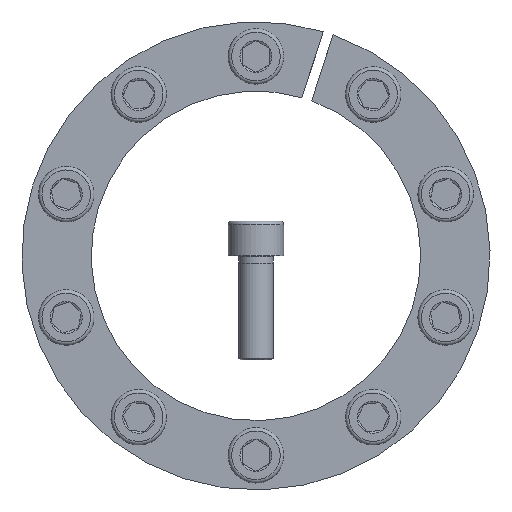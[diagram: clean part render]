
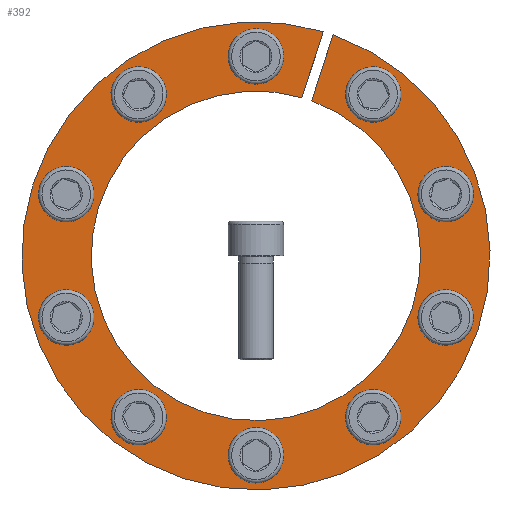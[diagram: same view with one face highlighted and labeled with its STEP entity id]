
A CAD part, front view. The second image highlights one B-rep face of the part: STEP entity #392.
In plain terms, the highlighted planar face has unit normal (0, -1, 0).
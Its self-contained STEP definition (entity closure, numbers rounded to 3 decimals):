
#392 = ADVANCED_FACE( '', ( #599, #600, #601, #602, #603, #604, #605, #606, #607, #608, #609 ), #610, .F. );
#599 = FACE_BOUND( '', #783, .T. );
#600 = FACE_BOUND( '', #784, .T. );
#601 = FACE_BOUND( '', #785, .T. );
#602 = FACE_BOUND( '', #786, .T. );
#603 = FACE_BOUND( '', #787, .T. );
#604 = FACE_OUTER_BOUND( '', #788, .T. );
#605 = FACE_BOUND( '', #789, .T. );
#606 = FACE_BOUND( '', #790, .T. );
#607 = FACE_BOUND( '', #791, .T. );
#608 = FACE_BOUND( '', #792, .T. );
#609 = FACE_BOUND( '', #793, .T. );
#610 = PLANE( '', #794 );
#783 = EDGE_LOOP( '', ( #1016 ) );
#784 = EDGE_LOOP( '', ( #1017 ) );
#785 = EDGE_LOOP( '', ( #1018 ) );
#786 = EDGE_LOOP( '', ( #1019 ) );
#787 = EDGE_LOOP( '', ( #1020 ) );
#788 = EDGE_LOOP( '', ( #1021, #1022, #1023, #1024 ) );
#789 = EDGE_LOOP( '', ( #1025 ) );
#790 = EDGE_LOOP( '', ( #1026 ) );
#791 = EDGE_LOOP( '', ( #1027 ) );
#792 = EDGE_LOOP( '', ( #1028 ) );
#793 = EDGE_LOOP( '', ( #1029 ) );
#794 = AXIS2_PLACEMENT_3D( '', #1030, #1031, #1032 );
#1016 = ORIENTED_EDGE( '', *, *, #1378, .T. );
#1017 = ORIENTED_EDGE( '', *, *, #1379, .T. );
#1018 = ORIENTED_EDGE( '', *, *, #1380, .T. );
#1019 = ORIENTED_EDGE( '', *, *, #1381, .T. );
#1020 = ORIENTED_EDGE( '', *, *, #1382, .T. );
#1021 = ORIENTED_EDGE( '', *, *, #1376, .F. );
#1022 = ORIENTED_EDGE( '', *, *, #1372, .F. );
#1023 = ORIENTED_EDGE( '', *, *, #1383, .T. );
#1024 = ORIENTED_EDGE( '', *, *, #1384, .F. );
#1025 = ORIENTED_EDGE( '', *, *, #1385, .T. );
#1026 = ORIENTED_EDGE( '', *, *, #1386, .T. );
#1027 = ORIENTED_EDGE( '', *, *, #1387, .T. );
#1028 = ORIENTED_EDGE( '', *, *, #1388, .T. );
#1029 = ORIENTED_EDGE( '', *, *, #1389, .T. );
#1030 = CARTESIAN_POINT( '', ( 0., 0., 67.5 ) );
#1031 = DIRECTION( '', ( 0., 1., 0. ) );
#1032 = DIRECTION( '', ( 0., 0., 1. ) );
#1372 = EDGE_CURVE( '', #1515, #1517, #1518, .T. );
#1376 = EDGE_CURVE( '', #1517, #1524, #1525, .T. );
#1378 = EDGE_CURVE( '', #1527, #1527, #1528, .T. );
#1379 = EDGE_CURVE( '', #1529, #1529, #1530, .T. );
#1380 = EDGE_CURVE( '', #1531, #1531, #1532, .T. );
#1381 = EDGE_CURVE( '', #1533, #1533, #1534, .T. );
#1382 = EDGE_CURVE( '', #1535, #1535, #1536, .T. );
#1383 = EDGE_CURVE( '', #1515, #1537, #1538, .T. );
#1384 = EDGE_CURVE( '', #1524, #1537, #1539, .T. );
#1385 = EDGE_CURVE( '', #1540, #1540, #1541, .T. );
#1386 = EDGE_CURVE( '', #1542, #1542, #1543, .T. );
#1387 = EDGE_CURVE( '', #1544, #1544, #1545, .T. );
#1388 = EDGE_CURVE( '', #1546, #1546, #1547, .T. );
#1389 = EDGE_CURVE( '', #1548, #1548, #1549, .T. );
#1515 = VERTEX_POINT( '', #1659 );
#1517 = VERTEX_POINT( '', #1662 );
#1518 = LINE( '', #1663, #1664 );
#1524 = VERTEX_POINT( '', #1672 );
#1525 = CIRCLE( '', #1673, 47.5 );
#1527 = VERTEX_POINT( '', #1676 );
#1528 = CIRCLE( '', #1677, 5. );
#1529 = VERTEX_POINT( '', #1678 );
#1530 = CIRCLE( '', #1679, 5. );
#1531 = VERTEX_POINT( '', #1680 );
#1532 = CIRCLE( '', #1681, 5. );
#1533 = VERTEX_POINT( '', #1682 );
#1534 = CIRCLE( '', #1683, 5. );
#1535 = VERTEX_POINT( '', #1684 );
#1536 = CIRCLE( '', #1685, 5. );
#1537 = VERTEX_POINT( '', #1686 );
#1538 = CIRCLE( '', #1687, 67.5 );
#1539 = LINE( '', #1688, #1689 );
#1540 = VERTEX_POINT( '', #1690 );
#1541 = CIRCLE( '', #1691, 5. );
#1542 = VERTEX_POINT( '', #1692 );
#1543 = CIRCLE( '', #1693, 5. );
#1544 = VERTEX_POINT( '', #1694 );
#1545 = CIRCLE( '', #1695, 5. );
#1546 = VERTEX_POINT( '', #1696 );
#1547 = CIRCLE( '', #1697, 5. );
#1548 = VERTEX_POINT( '', #1698 );
#1549 = CIRCLE( '', #1699, 5. );
#1659 = CARTESIAN_POINT( '', ( 19.427, 0., 64.644 ) );
#1662 = CARTESIAN_POINT( '', ( 13.244, 0., 45.616 ) );
#1663 = CARTESIAN_POINT( '', ( 19.432, 0., 64.66 ) );
#1664 = VECTOR( '', #1798, 1000. );
#1672 = CARTESIAN_POINT( '', ( 16.098, 0., 44.689 ) );
#1673 = AXIS2_PLACEMENT_3D( '', #1804, #1805, #1806 );
#1676 = CARTESIAN_POINT( '', ( -53.141, 0., 22.524 ) );
#1677 = AXIS2_PLACEMENT_3D( '', #1808, #1809, #1810 );
#1678 = CARTESIAN_POINT( '', ( -37.843, 0., -43.58 ) );
#1679 = AXIS2_PLACEMENT_3D( '', #1811, #1812, #1813 );
#1680 = CARTESIAN_POINT( '', ( 29.753, 0., -49.457 ) );
#1681 = AXIS2_PLACEMENT_3D( '', #1814, #1815, #1816 );
#1682 = CARTESIAN_POINT( '', ( 56.231, 0., 13.013 ) );
#1683 = AXIS2_PLACEMENT_3D( '', #1817, #1818, #1819 );
#1684 = CARTESIAN_POINT( '', ( 5., 0., 57.5 ) );
#1685 = AXIS2_PLACEMENT_3D( '', #1820, #1821, #1822 );
#1686 = CARTESIAN_POINT( '', ( 22.28, 0., 63.717 ) );
#1687 = AXIS2_PLACEMENT_3D( '', #1823, #1824, #1825 );
#1688 = CARTESIAN_POINT( '', ( 16.098, 0., 44.689 ) );
#1689 = VECTOR( '', #1826, 1000. );
#1690 = CARTESIAN_POINT( '', ( 37.843, 0., 43.58 ) );
#1691 = AXIS2_PLACEMENT_3D( '', #1827, #1828, #1829 );
#1692 = CARTESIAN_POINT( '', ( 53.141, 0., -22.524 ) );
#1693 = AXIS2_PLACEMENT_3D( '', #1830, #1831, #1832 );
#1694 = CARTESIAN_POINT( '', ( -5., 0., -57.5 ) );
#1695 = AXIS2_PLACEMENT_3D( '', #1833, #1834, #1835 );
#1696 = CARTESIAN_POINT( '', ( -56.231, 0., -13.013 ) );
#1697 = AXIS2_PLACEMENT_3D( '', #1836, #1837, #1838 );
#1698 = CARTESIAN_POINT( '', ( -29.753, 0., 49.457 ) );
#1699 = AXIS2_PLACEMENT_3D( '', #1839, #1840, #1841 );
#1798 = DIRECTION( '', ( -0.309, 0., -0.951 ) );
#1804 = CARTESIAN_POINT( '', ( 0., 0., 0. ) );
#1805 = DIRECTION( '', ( 0., -1., 0. ) );
#1806 = DIRECTION( '', ( 0., 0., -1. ) );
#1808 = CARTESIAN_POINT( '', ( -54.686, 0., 17.768 ) );
#1809 = DIRECTION( '', ( 0., 1., 0. ) );
#1810 = DIRECTION( '', ( 0.309, 0., 0.951 ) );
#1811 = CARTESIAN_POINT( '', ( -33.798, 0., -46.518 ) );
#1812 = DIRECTION( '', ( 0., 1., 0. ) );
#1813 = DIRECTION( '', ( -0.809, 0., 0.588 ) );
#1814 = CARTESIAN_POINT( '', ( 33.798, 0., -46.518 ) );
#1815 = DIRECTION( '', ( 0., 1., 0. ) );
#1816 = DIRECTION( '', ( -0.809, 0., -0.588 ) );
#1817 = CARTESIAN_POINT( '', ( 54.686, 0., 17.768 ) );
#1818 = DIRECTION( '', ( 0., 1., 0. ) );
#1819 = DIRECTION( '', ( 0.309, 0., -0.951 ) );
#1820 = CARTESIAN_POINT( '', ( 0., 0., 57.5 ) );
#1821 = DIRECTION( '', ( 0., 1., 0. ) );
#1822 = DIRECTION( '', ( 1., 0., 0. ) );
#1823 = CARTESIAN_POINT( '', ( 0., 0., 0. ) );
#1824 = DIRECTION( '', ( 0., -1., 0. ) );
#1825 = DIRECTION( '', ( 0., 0., -1. ) );
#1826 = DIRECTION( '', ( 0.309, 0., 0.951 ) );
#1827 = CARTESIAN_POINT( '', ( 33.798, 0., 46.518 ) );
#1828 = DIRECTION( '', ( 0., 1., 0. ) );
#1829 = DIRECTION( '', ( 0.809, 0., -0.588 ) );
#1830 = CARTESIAN_POINT( '', ( 54.686, 0., -17.768 ) );
#1831 = DIRECTION( '', ( 0., 1., 0. ) );
#1832 = DIRECTION( '', ( -0.309, 0., -0.951 ) );
#1833 = CARTESIAN_POINT( '', ( 0., 0., -57.5 ) );
#1834 = DIRECTION( '', ( 0., 1., 0. ) );
#1835 = DIRECTION( '', ( -1., 0., 0. ) );
#1836 = CARTESIAN_POINT( '', ( -54.686, 0., -17.768 ) );
#1837 = DIRECTION( '', ( 0., 1., 0. ) );
#1838 = DIRECTION( '', ( -0.309, 0., 0.951 ) );
#1839 = CARTESIAN_POINT( '', ( -33.798, 0., 46.518 ) );
#1840 = DIRECTION( '', ( 0., 1., 0. ) );
#1841 = DIRECTION( '', ( 0.809, 0., 0.588 ) );
